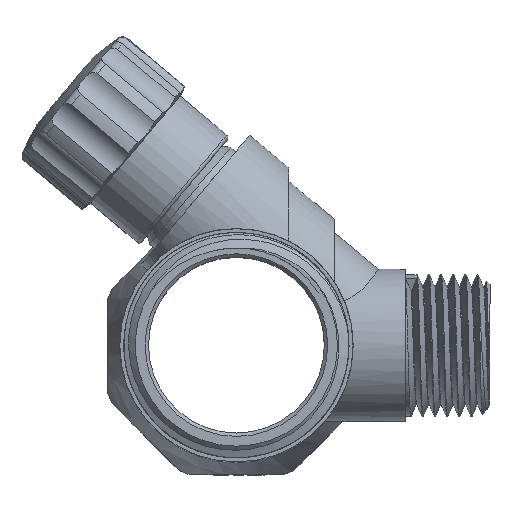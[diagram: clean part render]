
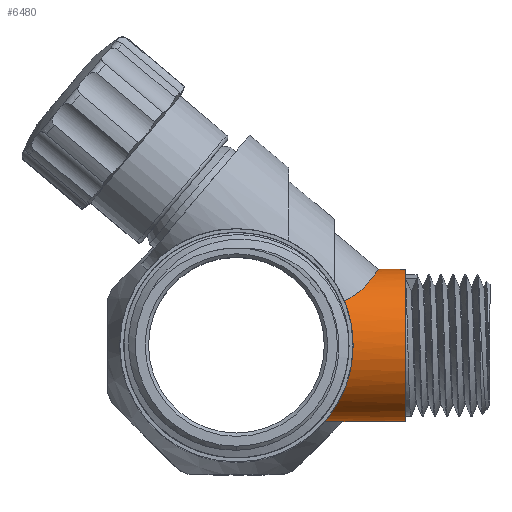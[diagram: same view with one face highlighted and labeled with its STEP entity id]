
A CAD part, top view. The second image highlights one B-rep face of the part: STEP entity #6480.
In plain terms, the highlighted cylindrical face has radius 11.25 mm (diameter 22.5 mm), a full revolution.
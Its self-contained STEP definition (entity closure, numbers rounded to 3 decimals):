
#388=CYLINDRICAL_SURFACE('',#6963,11.25);
#679=FACE_OUTER_BOUND('',#1051,.T.);
#1051=EDGE_LOOP('',(#5495,#5496,#5497,#5498,#5499,#5500,#5501));
#1300=CIRCLE('',#6948,11.25);
#1301=CIRCLE('',#6949,11.25);
#1673=B_SPLINE_CURVE_WITH_KNOTS('',3,(#17501,#17502,#17503,#17504,#17505,
#17506,#17507,#17508,#17509,#17510,#17511,#17512,#17513,#17514,#17515,#17516,
#17517,#17518,#17519,#17520,#17521,#17522),.UNSPECIFIED.,.F.,.F.,(4,2,2,
2,2,2,2,2,2,2,4),(-2.704,-2.605,-2.431,
-2.258,-1.89,-1.523,-1.156,
-0.788,-0.615,-0.441,-0.342),
 .UNSPECIFIED.);
#1674=B_SPLINE_CURVE_WITH_KNOTS('',3,(#17626,#17627,#17628,#17629,#17630,
#17631,#17632,#17633,#17634,#17635,#17636,#17637,#17638,#17639,#17640,#17641,
#17642,#17643,#17644,#17645),.UNSPECIFIED.,.F.,.F.,(4,2,2,2,2,2,2,2,2,4),
(4.592,4.847,5.066,5.285,5.504,
5.723,6.161,6.604,6.825,7.046),
 .UNSPECIFIED.);
#1675=B_SPLINE_CURVE_WITH_KNOTS('',3,(#17646,#17647,#17648,#17649,#17650,
#17651,#17652,#17653,#17654,#17655,#17656,#17657,#17658,#17659,#17660,#17661,
#17662,#17663,#17664,#17665),.UNSPECIFIED.,.F.,.F.,(4,2,2,2,2,2,2,2,2,4),
(7.046,7.268,7.489,7.931,8.37,
8.589,8.808,9.027,9.246,9.501),
 .UNSPECIFIED.);
#2039=LINE('',#17625,#2420);
#2420=VECTOR('',#8181,11.25);
#2971=VERTEX_POINT('',#17487);
#2972=VERTEX_POINT('',#17494);
#2994=VERTEX_POINT('',#17595);
#2995=VERTEX_POINT('',#17596);
#3004=VERTEX_POINT('',#17624);
#3865=EDGE_CURVE('',#2971,#2972,#1673,.T.);
#3896=EDGE_CURVE('',#2994,#2995,#1300,.T.);
#3897=EDGE_CURVE('',#2995,#2994,#1301,.T.);
#3909=EDGE_CURVE('',#2995,#3004,#2039,.T.);
#3910=EDGE_CURVE('',#2971,#3004,#1674,.T.);
#3911=EDGE_CURVE('',#3004,#2972,#1675,.T.);
#5495=ORIENTED_EDGE('',*,*,#3896,.F.);
#5496=ORIENTED_EDGE('',*,*,#3897,.F.);
#5497=ORIENTED_EDGE('',*,*,#3909,.T.);
#5498=ORIENTED_EDGE('',*,*,#3910,.F.);
#5499=ORIENTED_EDGE('',*,*,#3865,.T.);
#5500=ORIENTED_EDGE('',*,*,#3911,.F.);
#5501=ORIENTED_EDGE('',*,*,#3909,.F.);
#6480=ADVANCED_FACE('',(#679),#388,.T.);
#6948=AXIS2_PLACEMENT_3D('',#17597,#8146,#8147);
#6949=AXIS2_PLACEMENT_3D('',#17598,#8148,#8149);
#6963=AXIS2_PLACEMENT_3D('',#17623,#8179,#8180);
#8146=DIRECTION('center_axis',(1.,0.,0.));
#8147=DIRECTION('ref_axis',(0.,0.,-1.));
#8148=DIRECTION('center_axis',(1.,0.,0.));
#8149=DIRECTION('ref_axis',(0.,0.,-1.));
#8179=DIRECTION('center_axis',(1.,0.,0.));
#8180=DIRECTION('ref_axis',(0.,1.,0.));
#8181=DIRECTION('',(-1.,0.,0.));
#17487=CARTESIAN_POINT('',(15.935,6.606,-29.606));
#17494=CARTESIAN_POINT('',(15.935,6.606,-11.394));
#17501=CARTESIAN_POINT('Ctrl Pts',(15.935,6.606,-29.606));
#17502=CARTESIAN_POINT('Ctrl Pts',(16.25,6.727,-29.518));
#17503=CARTESIAN_POINT('Ctrl Pts',(16.547,6.866,-29.414));
#17504=CARTESIAN_POINT('Ctrl Pts',(17.295,7.271,-29.091));
#17505=CARTESIAN_POINT('Ctrl Pts',(17.761,7.594,-28.814));
#17506=CARTESIAN_POINT('Ctrl Pts',(18.574,8.271,-28.141));
#17507=CARTESIAN_POINT('Ctrl Pts',(18.924,8.622,-27.745));
#17508=CARTESIAN_POINT('Ctrl Pts',(19.802,9.58,-26.495));
#17509=CARTESIAN_POINT('Ctrl Pts',(20.251,10.199,-25.412));
#17510=CARTESIAN_POINT('Ctrl Pts',(20.834,11.035,-23.027));
#17511=CARTESIAN_POINT('Ctrl Pts',(20.968,11.25,-21.725));
#17512=CARTESIAN_POINT('Ctrl Pts',(20.968,11.25,-19.275));
#17513=CARTESIAN_POINT('Ctrl Pts',(20.834,11.035,-17.973));
#17514=CARTESIAN_POINT('Ctrl Pts',(20.251,10.199,-15.588));
#17515=CARTESIAN_POINT('Ctrl Pts',(19.802,9.58,-14.505));
#17516=CARTESIAN_POINT('Ctrl Pts',(18.924,8.622,-13.255));
#17517=CARTESIAN_POINT('Ctrl Pts',(18.574,8.271,-12.859));
#17518=CARTESIAN_POINT('Ctrl Pts',(17.761,7.594,-12.186));
#17519=CARTESIAN_POINT('Ctrl Pts',(17.295,7.271,-11.909));
#17520=CARTESIAN_POINT('Ctrl Pts',(16.547,6.866,-11.586));
#17521=CARTESIAN_POINT('Ctrl Pts',(16.25,6.727,-11.482));
#17522=CARTESIAN_POINT('Ctrl Pts',(15.935,6.606,-11.394));
#17595=CARTESIAN_POINT('',(25.,11.25,-20.5));
#17596=CARTESIAN_POINT('',(25.,-11.25,-20.5));
#17597=CARTESIAN_POINT('Origin',(25.,0.,-20.5));
#17598=CARTESIAN_POINT('Origin',(25.,0.,-20.5));
#17623=CARTESIAN_POINT('Origin',(12.5,0.,-20.5));
#17624=CARTESIAN_POINT('',(13.077,-11.25,-20.5));
#17625=CARTESIAN_POINT('',(12.5,-11.25,-20.5));
#17626=CARTESIAN_POINT('Ctrl Pts',(15.935,6.606,-29.606));
#17627=CARTESIAN_POINT('Ctrl Pts',(16.217,5.927,-30.099));
#17628=CARTESIAN_POINT('Ctrl Pts',(16.477,5.172,-30.529));
#17629=CARTESIAN_POINT('Ctrl Pts',(16.868,3.679,-31.158));
#17630=CARTESIAN_POINT('Ctrl Pts',(17.012,2.953,-31.381));
#17631=CARTESIAN_POINT('Ctrl Pts',(17.203,1.479,-31.678));
#17632=CARTESIAN_POINT('Ctrl Pts',(17.25,0.73,-31.75));
#17633=CARTESIAN_POINT('Ctrl Pts',(17.25,-0.73,
-31.75));
#17634=CARTESIAN_POINT('Ctrl Pts',(17.203,-1.479,-31.678));
#17635=CARTESIAN_POINT('Ctrl Pts',(17.012,-2.953,-31.381));
#17636=CARTESIAN_POINT('Ctrl Pts',(16.868,-3.679,-31.158));
#17637=CARTESIAN_POINT('Ctrl Pts',(16.326,-5.75,-30.285));
#17638=CARTESIAN_POINT('Ctrl Pts',(15.81,-6.985,-29.424));
#17639=CARTESIAN_POINT('Ctrl Pts',(14.797,-8.934,-27.476));
#17640=CARTESIAN_POINT('Ctrl Pts',(14.223,-9.788,-26.243));
#17641=CARTESIAN_POINT('Ctrl Pts',(13.57,-10.656,-24.182));
#17642=CARTESIAN_POINT('Ctrl Pts',(13.388,-10.88,-23.46));
#17643=CARTESIAN_POINT('Ctrl Pts',(13.141,-11.176,-21.988));
#17644=CARTESIAN_POINT('Ctrl Pts',(13.077,-11.25,-21.238));
#17645=CARTESIAN_POINT('Ctrl Pts',(13.077,-11.25,-20.5));
#17646=CARTESIAN_POINT('Ctrl Pts',(13.077,-11.25,-20.5));
#17647=CARTESIAN_POINT('Ctrl Pts',(13.077,-11.25,-19.762));
#17648=CARTESIAN_POINT('Ctrl Pts',(13.141,-11.176,-19.012));
#17649=CARTESIAN_POINT('Ctrl Pts',(13.388,-10.88,-17.54));
#17650=CARTESIAN_POINT('Ctrl Pts',(13.57,-10.656,-16.818));
#17651=CARTESIAN_POINT('Ctrl Pts',(14.223,-9.788,-14.757));
#17652=CARTESIAN_POINT('Ctrl Pts',(14.797,-8.934,-13.524));
#17653=CARTESIAN_POINT('Ctrl Pts',(15.81,-6.985,-11.576));
#17654=CARTESIAN_POINT('Ctrl Pts',(16.326,-5.75,-10.715));
#17655=CARTESIAN_POINT('Ctrl Pts',(16.868,-3.679,-9.842));
#17656=CARTESIAN_POINT('Ctrl Pts',(17.012,-2.953,-9.619));
#17657=CARTESIAN_POINT('Ctrl Pts',(17.203,-1.479,-9.322));
#17658=CARTESIAN_POINT('Ctrl Pts',(17.25,-0.73,
-9.25));
#17659=CARTESIAN_POINT('Ctrl Pts',(17.25,0.73,-9.25));
#17660=CARTESIAN_POINT('Ctrl Pts',(17.203,1.479,-9.322));
#17661=CARTESIAN_POINT('Ctrl Pts',(17.012,2.953,-9.619));
#17662=CARTESIAN_POINT('Ctrl Pts',(16.868,3.679,-9.842));
#17663=CARTESIAN_POINT('Ctrl Pts',(16.477,5.172,-10.471));
#17664=CARTESIAN_POINT('Ctrl Pts',(16.217,5.927,-10.901));
#17665=CARTESIAN_POINT('Ctrl Pts',(15.935,6.606,-11.394));
